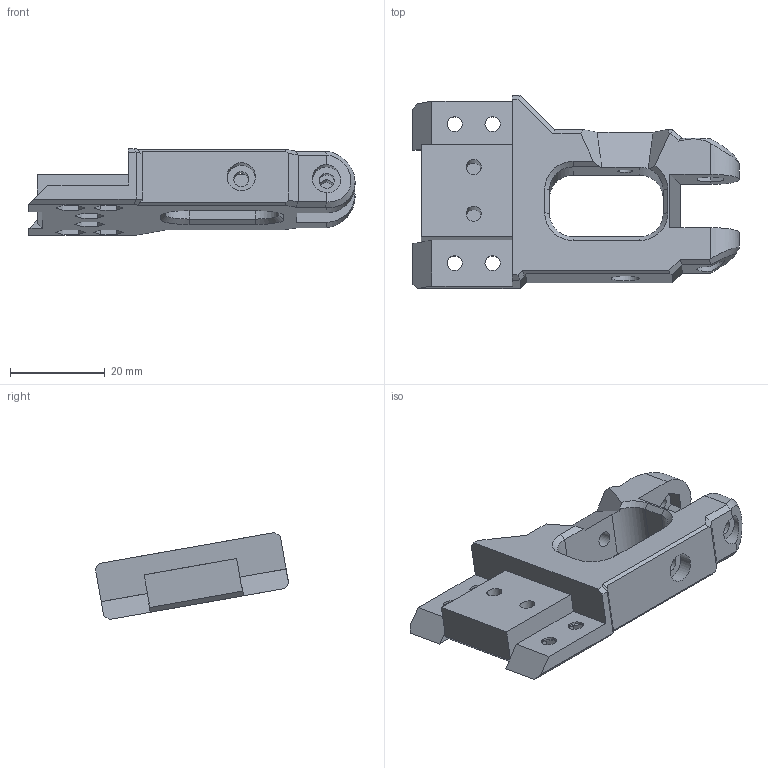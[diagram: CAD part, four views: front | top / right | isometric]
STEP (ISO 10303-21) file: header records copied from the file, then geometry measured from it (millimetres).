
FILE_DESCRIPTION(/* description */ (''),/* implementation_level */ '2;1');
FILE_NAME(/* name */ '4-30-1 Bottom wishbone left.step',/* time_stamp */ '2025-05-10T22:19:22+02:00',/* author */ (''),/* organization */ (''),/* preprocessor_version */ 'ST-DEVELOPER v20.1',/* originating_system */ 'Autodesk Translation Framework v14.4.0.0',/* authorisation */ '');
FILE_SCHEMA (('AUTOMOTIVE_DESIGN { 1 0 10303 214 3 1 1 }'));
Length unit declared in the file: millimetre
Products named in the file (1): Bottom wishbone left
Bounding box: 68.8 x 40.73 x 18.35 mm (x, y, z)
Volume: 14225.3 mm3; surface area: 7242.9 mm2
Topology: 1 solids, 1 shells, 197 faces, 540 edges, 349 vertices
Faces by surface type: plane 162, cylinder 19, cone 14, bspline 2
Full cylindrical faces by diameter (mm): 3.2 x10, 6 x3
Entity records: 6377 total; most frequent: CARTESIAN_POINT 1367, ORIENTED_EDGE 1080, DIRECTION 974, EDGE_CURVE 540, LINE 398, VECTOR 398, VERTEX_POINT 349, AXIS2_PLACEMENT_3D 288
